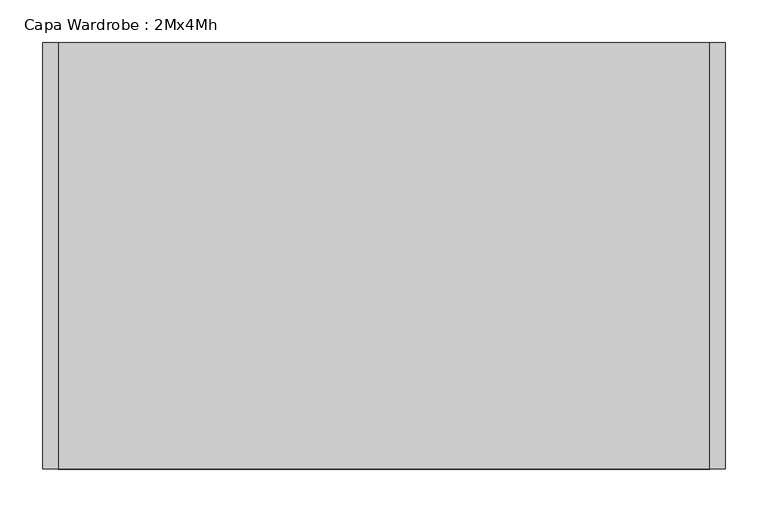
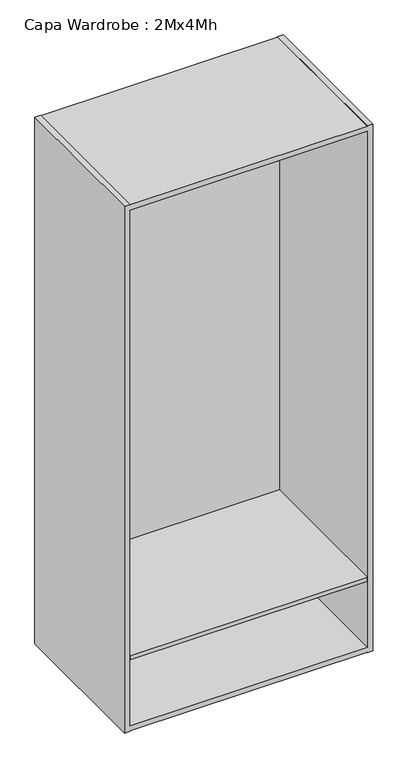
"""IFC4 building model written with IfcOpenShell, lengths in millimetres: furniture geometry, Capa Wardrobe : 2Mx4Mh."""

from ifc_helpers import new_model, si_unit, point, frame, frame_2d, origin, place, context, project, spatial, polyline, circle_curve, trimmed, segment, composite_curve, outline, extrude, faceted_brep, source, transform, mapped, element, save


def capa_wardrobe_2mx4mh_568411ce(model_context):
    return source(origin(), model_context, "Body", "SolidModel", [
        extrude(outline(polyline([(382.0, -500.0), (-382.0, -500.0), (-382.0, -10.0), (382.0, -10.0), (382.0, -500.0)])), frame((0.0, 0.0, 243.0), z_axis=(0.0, 0.0, 1.0), x_axis=(1.0, 0.0, 0.0)), (0.0, 0.0, 1.0), 14.0),
        extrude(outline(composite_curve([segment(polyline([(-250.0, 1692.0), (-250.0, 1672.0)]), True, "CONTINUOUS"), segment(trimmed(circle_curve(frame_2d((-258.0, 1672.0)), 8.0), [point((-250.0, 1672.0))], [point((-266.0, 1672.0))], False, "CARTESIAN"), True, "CONTINUOUS"), segment(polyline([(-266.0, 1672.0), (-266.0, 1692.0)]), True, "CONTINUOUS"), segment(trimmed(circle_curve(frame_2d((-258.0, 1692.0)), 8.0), [point((-266.0, 1692.0))], [point((-250.0, 1692.0))], False, "CARTESIAN"), True, "CONTINUOUS")], self_intersect=False)), frame((-382.0, 0.0, 0.0), z_axis=(1.0, 0.0, 0.0), x_axis=(0.0, 1.0, 0.0)), (0.0, 0.0, 1.0), 764.0),
        faceted_brep([(-382.0, 0.0, 1792.0), (-382.0, 0.0, 1791.0), (382.0, 0.0, 1791.0), (382.0, 0.0, 1792.0), (400.0, 0.0, 1792.0), (400.0, 0.0, 0.0), (382.0, 0.0, 0.0), (382.0, 0.0, 1.0), (-382.0, 0.0, 1.0), (-382.0, 0.0, 0.0), (-400.0, 0.0, 0.0), (-400.0, 0.0, 1792.0), (382.0, -10.0, 19.0), (382.0, -10.0, 1773.0), (-382.0, -10.0, 1773.0), (-382.0, -10.0, 19.0), (-382.0, -500.0, 1792.0), (-400.0, -500.0, 1792.0), (-400.0, -500.0, 0.0), (-382.0, -500.0, 0.0), (-382.0, -500.0, 1.0), (382.0, -500.0, 1.0), (382.0, -500.0, 0.0), (400.0, -500.0, 0.0), (400.0, -500.0, 1792.0), (382.0, -500.0, 1792.0), (382.0, -500.0, 1791.0), (-382.0, -500.0, 1791.0), (382.0, -500.0, 1773.0), (382.0, -500.0, 19.0), (-382.0, -500.0, 19.0), (-382.0, -500.0, 1773.0)], [[[0, 1, 2, 3, 4, 5, 6, 7, 8, 9, 10, 11]], [[12, 13, 14, 15]], [[16, 17, 18, 19, 20, 21, 22, 23, 24, 25, 26, 27], [28, 29, 30, 31]], [[17, 16, 0, 11]], [[18, 17, 11, 10]], [[23, 22, 6, 5]], [[24, 23, 5, 4]], [[19, 18, 10, 9]], [[20, 19, 9, 8]], [[21, 20, 8, 7]], [[22, 21, 7, 6]], [[25, 24, 4, 3]], [[26, 25, 3, 2]], [[27, 26, 2, 1]], [[16, 27, 1, 0]], [[29, 28, 13, 12]], [[30, 29, 12, 15]], [[31, 30, 15, 14]], [[28, 31, 14, 13]]]),
    ])


if __name__ == "__main__":
    model = new_model("IFC4")
    model_context = context("Model", 3, world=origin())
    ifc_project = project(units=[si_unit("LENGTHUNIT", "METRE", prefix="MILLI")], contexts=[model_context])
    site = spatial("IfcSite", under=ifc_project)
    building = spatial("IfcBuilding", under=site)
    placement = place(None, origin())
    capa_wardrobe_2mx4mh_shape = capa_wardrobe_2mx4mh_568411ce(model_context)
    element("IfcFurniture", 1, ObjectType="Capa Wardrobe : 2Mx4Mh", at=placement, inside=building, context=model_context, shape_type="MappedRepresentation", body=[
        mapped(capa_wardrobe_2mx4mh_shape, transform((0.0, 0.0, 0.0), x_axis=(1.0, 0.0, 0.0), y_axis=(0.0, 1.0, 0.0), z_axis=(0.0, 0.0, 1.0))),
    ])
    save(model, "model.ifc")
